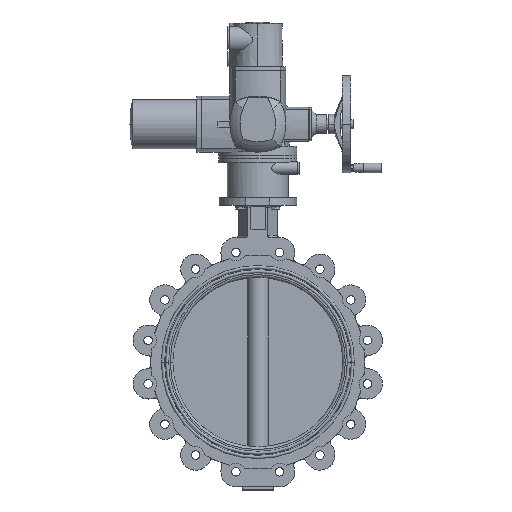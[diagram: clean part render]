
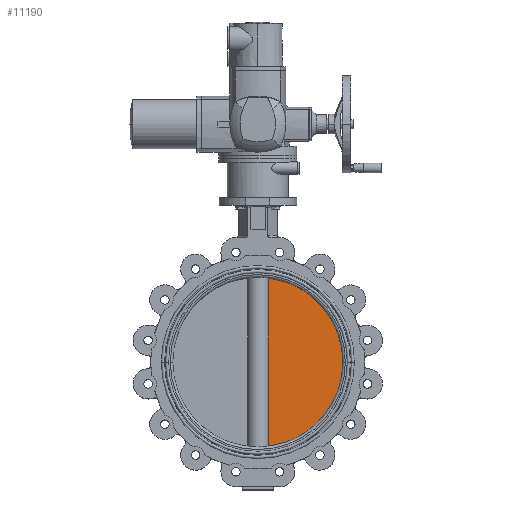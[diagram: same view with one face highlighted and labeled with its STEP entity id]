
A CAD part, top view. The second image highlights one B-rep face of the part: STEP entity #11190.
In plain terms, the highlighted planar face has unit normal (0, 0, 1).
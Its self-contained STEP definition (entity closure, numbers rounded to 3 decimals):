
#1220 = DIRECTION ( 'NONE',  ( 0., -1., 0. ) ) ;
#2057 = AXIS2_PLACEMENT_3D ( 'NONE', #10106, #17918, #28110 ) ;
#3615 = DIRECTION ( 'NONE',  ( 0., 0., -1. ) ) ;
#5805 = EDGE_CURVE ( 'NONE', #9455, #23417, #11687, .T. ) ;
#6380 = ORIENTED_EDGE ( 'NONE', *, *, #21809, .F. ) ;
#6412 = CARTESIAN_POINT ( 'NONE',  ( 0., 0., 6. ) ) ;
#7731 = CARTESIAN_POINT ( 'NONE',  ( 21.166, 173.715, 6. ) ) ;
#9455 = VERTEX_POINT ( 'NONE', #7731 ) ;
#10106 = CARTESIAN_POINT ( 'NONE',  ( 21.166, 369.501, 6. ) ) ;
#11190 = ADVANCED_FACE ( 'NONE', ( #30436 ), #30608, .F. ) ;
#11639 = EDGE_CURVE ( 'NONE', #9455, #23176, #24023, .T. ) ;
#11687 = CIRCLE ( 'NONE', #15970, 175. ) ;
#13316 = DIRECTION ( 'NONE',  ( -1., 0., 0. ) ) ;
#15824 = CARTESIAN_POINT ( 'NONE',  ( 0., 0., 6. ) ) ;
#15970 = AXIS2_PLACEMENT_3D ( 'NONE', #15824, #28811, #13316 ) ;
#17918 = DIRECTION ( 'NONE',  ( 0., 0., -1. ) ) ;
#18290 = ORIENTED_EDGE ( 'NONE', *, *, #5805, .F. ) ;
#18360 = CIRCLE ( 'NONE', #32209, 175. ) ;
#21809 = EDGE_CURVE ( 'NONE', #23417, #23176, #18360, .T. ) ;
#21936 = VECTOR ( 'NONE', #1220, 1000. ) ;
#23176 = VERTEX_POINT ( 'NONE', #25918 ) ;
#23417 = VERTEX_POINT ( 'NONE', #27889 ) ;
#23538 = CARTESIAN_POINT ( 'NONE',  ( 21.166, 369.501, 6. ) ) ;
#24023 = LINE ( 'NONE', #23538, #21936 ) ;
#24067 = ORIENTED_EDGE ( 'NONE', *, *, #11639, .T. ) ;
#25918 = CARTESIAN_POINT ( 'NONE',  ( 21.166, -173.715, 6. ) ) ;
#27889 = CARTESIAN_POINT ( 'NONE',  ( 175., 0., 6. ) ) ;
#28110 = DIRECTION ( 'NONE',  ( -1., 0., 0. ) ) ;
#28811 = DIRECTION ( 'NONE',  ( 0., 0., -1. ) ) ;
#29102 = DIRECTION ( 'NONE',  ( -1., 0., 0. ) ) ;
#30157 = EDGE_LOOP ( 'NONE', ( #18290, #24067, #6380 ) ) ;
#30436 = FACE_OUTER_BOUND ( 'NONE', #30157, .T. ) ;
#30608 = PLANE ( 'NONE',  #2057 ) ;
#32209 = AXIS2_PLACEMENT_3D ( 'NONE', #6412, #3615, #29102 ) ;
